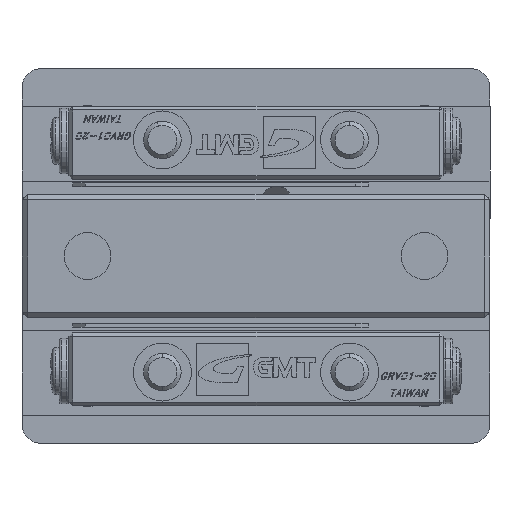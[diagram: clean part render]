
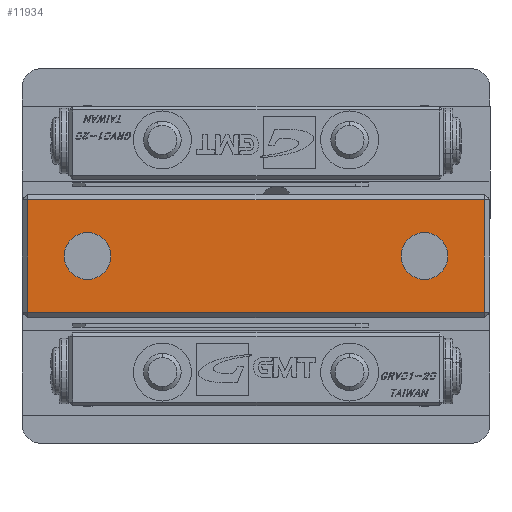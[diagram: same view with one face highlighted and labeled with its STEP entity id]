
A CAD part, front view. The second image highlights one B-rep face of the part: STEP entity #11934.
In plain terms, the highlighted planar face has unit normal (0, -1, 0).
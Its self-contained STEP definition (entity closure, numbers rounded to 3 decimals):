
#4806 = CARTESIAN_POINT ( 'NONE',  ( 10.689, -2.631, 0. ) ) ;
#4807 = DIRECTION ( 'NONE',  ( 0., 1., 0. ) ) ;
#4808 = DIRECTION ( 'NONE',  ( 0., 0., 1. ) ) ;
#4816 = CARTESIAN_POINT ( 'NONE',  ( -7.311, -2.631, 0. ) ) ;
#4817 = DIRECTION ( 'NONE',  ( 0., 1., 0. ) ) ;
#4818 = DIRECTION ( 'NONE',  ( 0., 0., 1. ) ) ;
#5672 = EDGE_CURVE ( 'NONE', #26070, #26018, #50937, .T. ) ;
#5676 = EDGE_CURVE ( 'NONE', #26074, #26192, #50935, .T. ) ;
#5698 = EDGE_CURVE ( 'NONE', #26158, #26011, #50970, .T. ) ;
#5700 = EDGE_CURVE ( 'NONE', #26045, #26158, #50974, .T. ) ;
#5702 = EDGE_CURVE ( 'NONE', #26011, #25999, #50978, .T. ) ;
#5704 = EDGE_CURVE ( 'NONE', #25999, #26045, #50982, .T. ) ;
#7695 = ORIENTED_EDGE ( 'NONE', *, *, #5700, .T. ) ;
#7698 = ORIENTED_EDGE ( 'NONE', *, *, #5698, .T. ) ;
#7701 = ORIENTED_EDGE ( 'NONE', *, *, #5702, .T. ) ;
#7703 = ORIENTED_EDGE ( 'NONE', *, *, #5704, .T. ) ;
#7706 = ORIENTED_EDGE ( 'NONE', *, *, #5676, .T. ) ;
#7709 = ORIENTED_EDGE ( 'NONE', *, *, #32829, .T. ) ;
#7712 = ORIENTED_EDGE ( 'NONE', *, *, #5672, .T. ) ;
#7715 = ORIENTED_EDGE ( 'NONE', *, *, #32841, .T. ) ;
#9732 = EDGE_LOOP ( 'NONE', ( #7695, #7698, #7701, #7703 ) ) ;
#9781 = EDGE_LOOP ( 'NONE', ( #7706, #7709 ) ) ;
#9794 = EDGE_LOOP ( 'NONE', ( #7712, #7715 ) ) ;
#11934 = ADVANCED_FACE ( 'NONE', ( #52475, #52480, #52478 ), #18633, .F. ) ;
#18616 = DIRECTION ( 'NONE',  ( 0., 1., 0. ) ) ;
#18629 = CARTESIAN_POINT ( 'NONE',  ( -10.811, -2.631, -3.3 ) ) ;
#18633 = PLANE ( 'NONE',  #34941 ) ;
#18637 = DIRECTION ( 'NONE',  ( 0., 0., 1. ) ) ;
#25999 = VERTEX_POINT ( 'NONE', #32428 ) ;
#26011 = VERTEX_POINT ( 'NONE', #32457 ) ;
#26018 = VERTEX_POINT ( 'NONE', #32475 ) ;
#26045 = VERTEX_POINT ( 'NONE', #32543 ) ;
#26070 = VERTEX_POINT ( 'NONE', #32609 ) ;
#26074 = VERTEX_POINT ( 'NONE', #32619 ) ;
#26158 = VERTEX_POINT ( 'NONE', #32827 ) ;
#26192 = VERTEX_POINT ( 'NONE', #32909 ) ;
#32428 = CARTESIAN_POINT ( 'NONE',  ( 13.889, -2.631, -3. ) ) ;
#32457 = CARTESIAN_POINT ( 'NONE',  ( -10.511, -2.631, -3. ) ) ;
#32475 = CARTESIAN_POINT ( 'NONE',  ( -7.311, -2.631, -1.25 ) ) ;
#32543 = CARTESIAN_POINT ( 'NONE',  ( 13.889, -2.631, 3. ) ) ;
#32609 = CARTESIAN_POINT ( 'NONE',  ( -7.311, -2.631, 1.25 ) ) ;
#32619 = CARTESIAN_POINT ( 'NONE',  ( 10.689, -2.631, 1.25 ) ) ;
#32827 = CARTESIAN_POINT ( 'NONE',  ( -10.511, -2.631, 3. ) ) ;
#32829 = EDGE_CURVE ( 'NONE', #26192, #26074, #45788, .T. ) ;
#32841 = EDGE_CURVE ( 'NONE', #26018, #26070, #45794, .T. ) ;
#32909 = CARTESIAN_POINT ( 'NONE',  ( 10.689, -2.631, -1.25 ) ) ;
#34760 = AXIS2_PLACEMENT_3D ( 'NONE', #44856, #44855, #44854 ) ;
#34762 = AXIS2_PLACEMENT_3D ( 'NONE', #44846, #44845, #44844 ) ;
#34941 = AXIS2_PLACEMENT_3D ( 'NONE', #18629, #18616, #18637 ) ;
#44844 = DIRECTION ( 'NONE',  ( 0., 0., 1. ) ) ;
#44845 = DIRECTION ( 'NONE',  ( 0., 1., 0. ) ) ;
#44846 = CARTESIAN_POINT ( 'NONE',  ( 10.689, -2.631, 0. ) ) ;
#44854 = DIRECTION ( 'NONE',  ( 0., 0., 1. ) ) ;
#44855 = DIRECTION ( 'NONE',  ( 0., 1., 0. ) ) ;
#44856 = CARTESIAN_POINT ( 'NONE',  ( -7.311, -2.631, 0. ) ) ;
#44902 = DIRECTION ( 'NONE',  ( -1., 0., 0. ) ) ;
#44903 = CARTESIAN_POINT ( 'NONE',  ( -10.811, -2.631, 3. ) ) ;
#44905 = DIRECTION ( 'NONE',  ( 0., 0., -1. ) ) ;
#44907 = CARTESIAN_POINT ( 'NONE',  ( -10.511, -2.631, -3.3 ) ) ;
#44962 = DIRECTION ( 'NONE',  ( 1., 0., 0. ) ) ;
#44964 = CARTESIAN_POINT ( 'NONE',  ( -10.811, -2.631, -3. ) ) ;
#44966 = CARTESIAN_POINT ( 'NONE',  ( 13.889, -2.631, -3.3 ) ) ;
#44969 = DIRECTION ( 'NONE',  ( 0., 0., 1. ) ) ;
#45788 = CIRCLE ( 'NONE', #46418, 1.25 ) ;
#45794 = CIRCLE ( 'NONE', #46420, 1.25 ) ;
#46418 = AXIS2_PLACEMENT_3D ( 'NONE', #4806, #4807, #4808 ) ;
#46420 = AXIS2_PLACEMENT_3D ( 'NONE', #4816, #4817, #4818 ) ;
#50935 = CIRCLE ( 'NONE', #34762, 1.25 ) ;
#50937 = CIRCLE ( 'NONE', #34760, 1.25 ) ;
#50970 = LINE ( 'NONE', #44907, #50973 ) ;
#50973 = VECTOR ( 'NONE', #44905, 1000. ) ;
#50974 = LINE ( 'NONE', #44903, #50977 ) ;
#50977 = VECTOR ( 'NONE', #44902, 1000. ) ;
#50978 = LINE ( 'NONE', #44964, #50981 ) ;
#50981 = VECTOR ( 'NONE', #44962, 1000. ) ;
#50982 = LINE ( 'NONE', #44966, #50985 ) ;
#50985 = VECTOR ( 'NONE', #44969, 1000. ) ;
#52475 = FACE_OUTER_BOUND ( 'NONE', #9732, .T. ) ;
#52478 = FACE_BOUND ( 'NONE', #9794, .T. ) ;
#52480 = FACE_BOUND ( 'NONE', #9781, .T. ) ;
